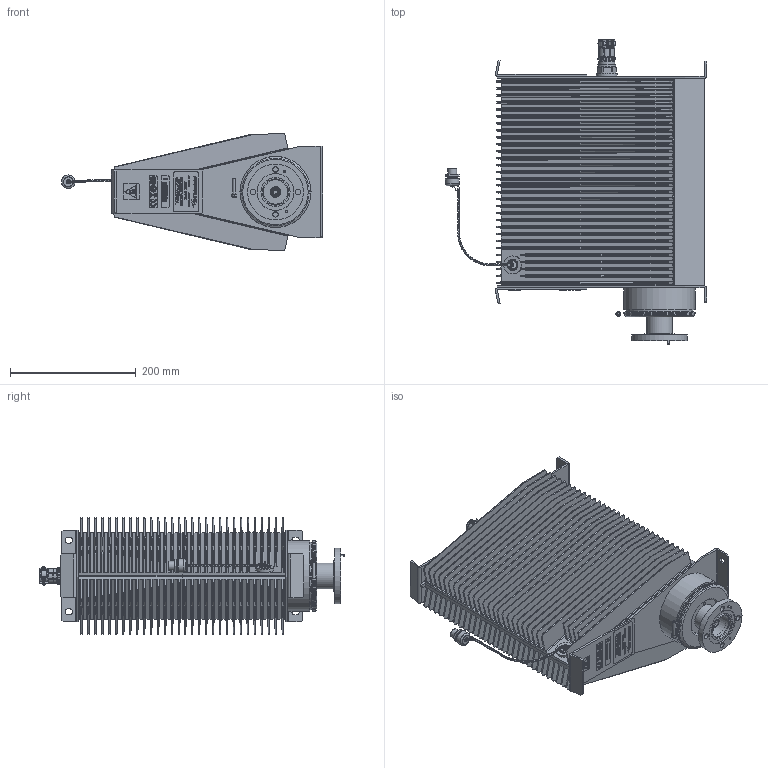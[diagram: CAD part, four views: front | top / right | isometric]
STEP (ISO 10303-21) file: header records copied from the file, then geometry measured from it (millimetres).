
FILE_DESCRIPTION( ( 'Unknown' ), '1' );
FILE_NAME( 'Q:/PROJECTS/Library of Standard Models/8862D/8862D.stp', 'Unknown', ( 'Unknown' ), ( 'Unknown' ), 'PSStep 17.0.49', 'Unknown', ' ' );
FILE_SCHEMA( ( 'AUTOMOTIVE_DESIGN { 1 0 10303 214 1 1 1 1 }' ) );
Length unit declared in the file: millimetre
Products named in the file (38): 1; 2; 3; 4; 5; 6; 7; 8; 9; 10; 11; 12; 91792A106; 13; 14; 15; 16; 17; 18; 19; 20; 21; 22; 23; 24; User Library-MS3102E12S-3P; User Library-Amphenol MS3106A Connector; 25; 26; 27; 28; 29; 30; 31; 32; 33; 34; 35
Bounding box: 415.9 x 486.6 x 185.56 mm (x, y, z)
Volume: 2953928 mm3; surface area: 1926953.8 mm2
Topology: 38 solids, 40 shells, 6709 faces, 18858 edges, 12544 vertices
Faces by surface type: plane 5622, cylinder 544, bspline 230, extrusion 173, cone 78, sphere 48, torus 14
Full cylindrical faces by diameter (mm): 0.468 x1, 0.76 x1, 0.823 x1, 1.037 x1, 1.062 x1, 1.143 x4, 1.524 x1, 2.54 x2, 2.616 x4, 3.048 x2, 3.277 x1, 3.81 x4, 4.747 x1, 4.775 x2, 4.797 x1, 4.826 x1, 5.563 x1, 6.265 x1, 6.33 x1, 6.35 x1, 6.629 x1, 7.811 x1, 8.712 x4, 9.398 x1, 9.55 x1, 11.557 x1, 12.243 x1, 12.903 x1, 13.335 x1, 14.224 x1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
Entity records: 337067 total; most frequent: CARTESIAN_POINT 66778, ORIENTED_EDGE 36990, DIRECTION 31039, EDGE_CURVE 18495, STYLED_ITEM 16143, PRESENTATION_STYLE_ASSIGNMENT 16143, COLOUR_RGB 16143, VECTOR 15751
